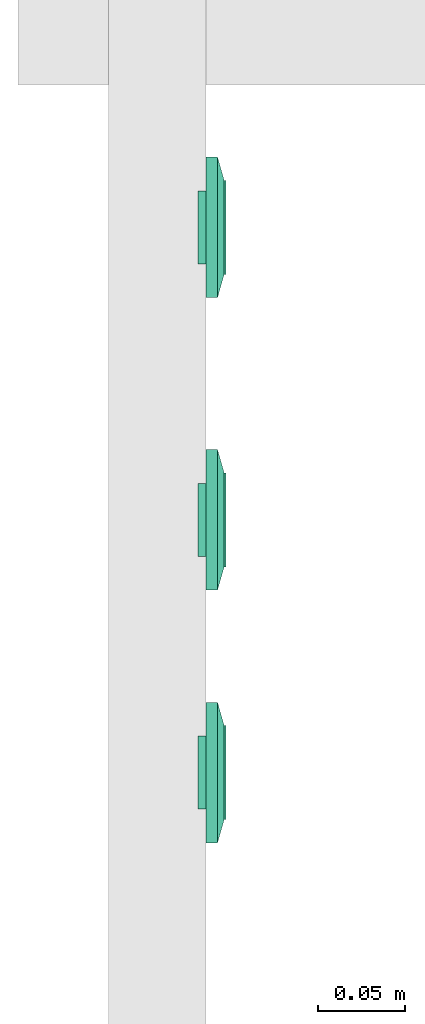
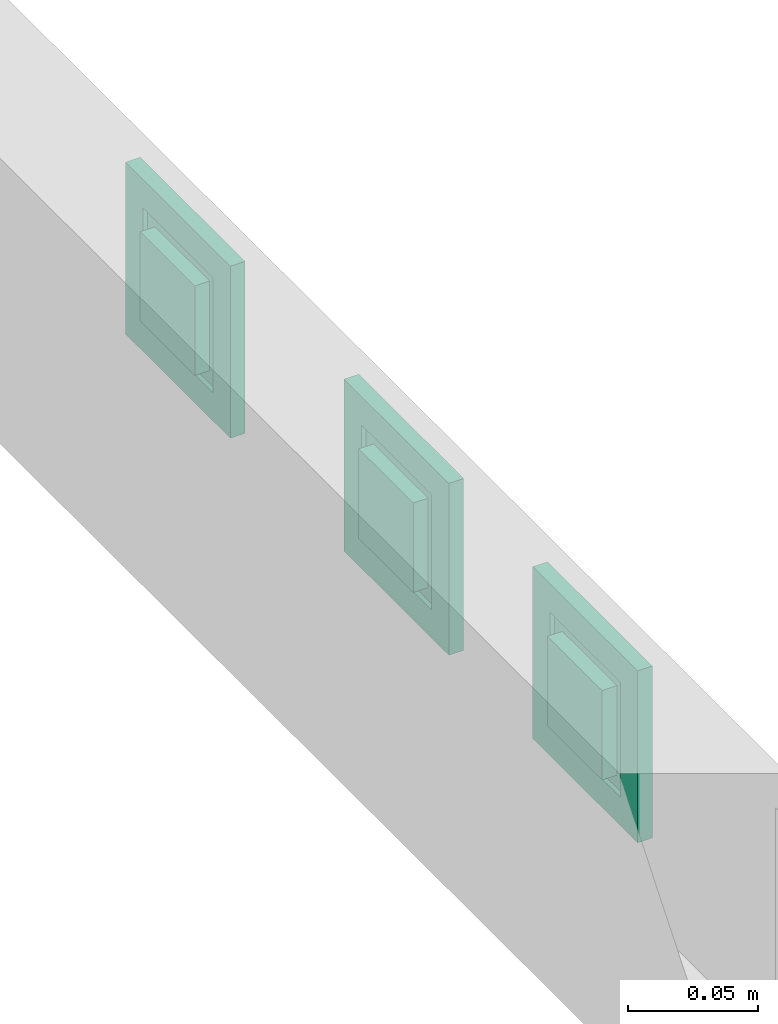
# One storey, part 27 of 166: 3 flow terminals.
"""IFC2X3 building model written with IfcOpenShell, lengths in metres."""

import ifcopenshell
import ifcopenshell.guid

model = None  # the IFC model being written
_history = None  # IfcOwnerHistory: only IFC2X3 demands one
_inside = {}  # id of a spatial element -> (the spatial element, [elements in it])
_under = {}  # id of a project, library or spatial element -> (it, [spatial elements below it])
_declared = {}  # id of a project -> (the project, [libraries it declares])
_typed = {}  # id of a type object -> (the type object, [elements of that type])
_made_of = {}  # id of a material, layer set ... -> (it, [elements and type objects made of it])


def new_model(schema):
    """Start an empty IFC model of exactly this schema.

    Asked for "IFC4X3", IfcOpenShell would pick the latest addendum, in which some entities
    have other attributes; the version numbers below select the first issue.
    IFC2X3 requires an IfcOwnerHistory on every rooted entity: one is made here for all.
    """
    global model, _history
    if schema == "IFC4X3":
        model = ifcopenshell.file(schema_version=(4, 3, 0, 0))
    else:
        model = ifcopenshell.file(schema=schema)
    _inside.clear()
    _under.clear()
    _declared.clear()
    _typed.clear()
    _made_of.clear()
    _history = None
    if model.schema == "IFC2X3":
        org = make("IfcOrganization", Name="unknown")
        user = make(
            "IfcPersonAndOrganization",
            ThePerson=make("IfcPerson", FamilyName="unknown"),
            TheOrganization=org,
        )
        app = make(
            "IfcApplication",
            ApplicationDeveloper=org,
            Version="unknown",
            ApplicationFullName="unknown",
            ApplicationIdentifier="unknown",
        )
        _history = make(
            "IfcOwnerHistory",
            OwningUser=user,
            OwningApplication=app,
            ChangeAction="ADDED",
            CreationDate=0,
        )
    return model


def make(cls, **values):
    """One entity of the class cls with the attributes given. An attribute that is None is left unset."""
    return model.create_entity(
        cls, **{name: value for name, value in values.items() if value is not None}
    )


def entity(cls, *values):
    """Any entity or typed value of the class cls, its attributes in the order of the schema. None: left unset."""
    e = model.create_entity(cls)
    for i, value in enumerate(values):
        if value is not None:
            e[i] = value
    return e


def rooted(cls, **values):
    """An entity with a GlobalId (a new one), such as an element, a storey or a relation."""
    return make(cls, GlobalId=ifcopenshell.guid.new(), OwnerHistory=_history, **values)


def si_unit(unit_type, name, prefix=None):
    """IfcSIUnit, for example si_unit("LENGTHUNIT", "METRE", prefix="MILLI")."""
    return make("IfcSIUnit", UnitType=unit_type, Prefix=prefix, Name=name)


def converted_unit(unit_type, name, factor, base, dimensions=None, offset=None):
    """IfcConversionBasedUnit, such as the inch: factor (a typed value) times the base unit."""
    return make(
        "IfcConversionBasedUnit"
        if offset is None
        else "IfcConversionBasedUnitWithOffset",
        ConversionOffset=offset,
        Dimensions=None
        if dimensions is None
        else entity("IfcDimensionalExponents", *dimensions),
        UnitType=unit_type,
        Name=name,
        ConversionFactor=make(
            "IfcMeasureWithUnit", ValueComponent=factor, UnitComponent=base
        ),
    )


def derived_unit(unit_type, elements):
    """IfcDerivedUnit: a product of units, each with its exponent."""
    return make(
        "IfcDerivedUnit",
        Elements=[
            make("IfcDerivedUnitElement", Unit=unit, Exponent=power)
            for unit, power in elements
        ],
        UnitType=unit_type,
    )


def assignment(units):
    """IfcUnitAssignment: the units of a project."""
    return None if units is None else make("IfcUnitAssignment", Units=units)


def point(xyz):
    """IfcCartesianPoint."""
    return None if xyz is None else make("IfcCartesianPoint", Coordinates=xyz)


def direction(xyz):
    """IfcDirection."""
    return None if xyz is None else make("IfcDirection", DirectionRatios=xyz)


def frame(location, z_axis=None, x_axis=None):
    """IfcAxis2Placement3D, a coordinate frame: its origin and axes. An axis left out is left unset."""
    return make(
        "IfcAxis2Placement3D",
        Location=point(location),
        Axis=direction(z_axis),
        RefDirection=direction(x_axis),
    )


def origin():
    """The frame at (0, 0, 0) with its axes left unset."""
    return frame((0.0, 0.0, 0.0))


def place(relative_to, where):
    """IfcLocalPlacement: puts the frame where relative to a parent placement (None: the world)."""
    return make(
        "IfcLocalPlacement", PlacementRelTo=relative_to, RelativePlacement=where
    )


def context(
    kind, dimensions, precision=None, world=None, true_north=None, identifier=None
):
    """IfcGeometricRepresentationContext, for example the 3D "Model" context."""
    return make(
        "IfcGeometricRepresentationContext",
        ContextIdentifier=identifier,
        ContextType=kind,
        CoordinateSpaceDimension=dimensions,
        Precision=precision,
        WorldCoordinateSystem=world,
        TrueNorth=true_north,
    )


def subcontext(parent, identifier, kind, view, scale=None):
    """IfcGeometricRepresentationSubContext, for example "Body" below "Model"."""
    return make(
        "IfcGeometricRepresentationSubContext",
        ContextIdentifier=identifier,
        ContextType=kind,
        ParentContext=parent,
        TargetScale=scale,
        TargetView=view,
    )


def project(units=None, contexts=None):
    """IfcProject with its units and contexts."""
    return rooted(
        "IfcProject",
        Name="project",
        RepresentationContexts=contexts,
        UnitsInContext=assignment(units),
    )


def spatial(cls, under=None, at=None, **own):
    """A site, building, storey or space (cls), placed at a placement, below another one or the project."""
    s = rooted(cls, ObjectPlacement=at, **own)
    if under is not None:
        _under.setdefault(under.id(), (under, []))[1].append(s)
    return s


def faces_of(points, faces, orient=None, outer=None):
    """IfcFace entities. A face is a list of loops; a loop is a list of indices into points, from 0.

    orient and outer hold one flag for each loop. By default every Orientation is true, the
    first loop of a face is its IfcFaceOuterBound and the others are IfcFaceBound.
    """
    made = []
    for i, loops in enumerate(faces):
        bounds = []
        for j, loop in enumerate(loops):
            is_outer = j == 0 if outer is None else outer[i][j]
            bounds.append(
                make(
                    "IfcFaceOuterBound" if is_outer else "IfcFaceBound",
                    Bound=make("IfcPolyLoop", Polygon=[points[k] for k in loop]),
                    Orientation=True if orient is None else orient[i][j],
                )
            )
        made.append(make("IfcFace", Bounds=bounds))
    return made


def faceted_brep(points, faces, orient=None, outer=None, voids=None):
    """IfcFacetedBrep: a solid bounded by flat faces; with voids (closed shells), ...WithVoids."""
    shared = [point(p) for p in points]
    hull = make("IfcClosedShell", CfsFaces=faces_of(shared, faces, orient, outer))
    if voids is None:
        return make("IfcFacetedBrep", Outer=hull)
    return make(
        "IfcFacetedBrepWithVoids",
        Outer=hull,
        Voids=[
            make(cls, CfsFaces=faces_of(shared, fs, o, b)) for cls, fs, o, b in voids
        ],
    )


def shape(context_of_items, identifier, shape_type, items):
    """IfcShapeRepresentation: the items that make up one representation, for example the "Body"."""
    return make(
        "IfcShapeRepresentation",
        ContextOfItems=context_of_items,
        RepresentationIdentifier=identifier,
        RepresentationType=shape_type,
        Items=items,
    )


def source(mapping_origin, context_of_items, identifier, shape_type, items):
    """IfcRepresentationMap: a shape defined once, which mapped items show again and again."""
    return make(
        "IfcRepresentationMap",
        MappingOrigin=mapping_origin,
        MappedRepresentation=shape(context_of_items, identifier, shape_type, items),
    )


def transform(
    local_origin,
    x_axis=None,
    y_axis=None,
    z_axis=None,
    scale=None,
    scale2=None,
    scale3=None,
    uniform=True,
):
    """IfcCartesianTransformationOperator3D, or its non-uniform kind. x_axis, y_axis, z_axis: its Axis1, 2, 3."""
    if uniform:
        return make(
            "IfcCartesianTransformationOperator3D",
            Axis1=direction(x_axis),
            Axis2=direction(y_axis),
            LocalOrigin=point(local_origin),
            Scale=scale,
            Axis3=direction(z_axis),
        )
    return make(
        "IfcCartesianTransformationOperator3DnonUniform",
        Axis1=direction(x_axis),
        Axis2=direction(y_axis),
        LocalOrigin=point(local_origin),
        Scale=scale,
        Axis3=direction(z_axis),
        Scale2=scale2,
        Scale3=scale3,
    )


def mapped(mapping_source, mapping_target):
    """IfcMappedItem: shows the shape of a source again, moved by a transform."""
    return make(
        "IfcMappedItem", MappingSource=mapping_source, MappingTarget=mapping_target
    )


def made_of(thing, what):
    """Note that an element or type object is made of a material, layer set ...; save() writes the relation."""
    if what is not None:
        _made_of.setdefault(what.id(), (what, []))[1].append(thing)
    return thing


def type_object(cls, material=None, **own):
    """A type object (cls), such as IfcWallType, which elements share."""
    return made_of(rooted(cls, **own), material)


def type_shapes(of_type, sources):
    """Give a type object the sources (RepresentationMaps) that its elements show as mapped items."""
    of_type.RepresentationMaps = sources


def element(
    cls,
    number,
    at=None,
    inside=None,
    cuts=None,
    type_object=None,
    material=None,
    context=None,
    identifier="Body",
    shape_type=None,
    held_by="IfcProductDefinitionShape",
    body=None,
    shapes=None,
    **own,
):
    """One element of the class cls, such as IfcWall. Its Tag is "e" and its number.

    at: its placement. inside: the storey or other place that contains it. cuts: it is an
    opening in that element (IfcRelVoidsElement). A single representation is given by context,
    identifier, shape_type and body (its items); several are given by shapes. held_by: the class
    of the entity that holds the representations. save() writes the other relations.
    """
    e = rooted(cls, Tag="e%d" % number, ObjectPlacement=at, **own)
    if body is not None:
        shapes = [shape(context, identifier, shape_type, body)]
    if shapes is not None:
        e.Representation = make(held_by, Representations=shapes)
    if inside is not None:
        _inside.setdefault(inside.id(), (inside, []))[1].append(e)
    if cuts is not None:
        rooted(
            "IfcRelVoidsElement", RelatingBuildingElement=cuts, RelatedOpeningElement=e
        )
    if type_object is not None:
        _typed.setdefault(type_object.id(), (type_object, []))[1].append(e)
    return made_of(e, material)


def aggregate(whole, parts):
    """IfcRelAggregates: a whole, such as a stair, and the parts it consists of."""
    return rooted("IfcRelAggregates", RelatingObject=whole, RelatedObjects=parts)


def save(model, path):
    """Write the relations noted so far, then the file.

    IfcRelAggregates (storeys below a building ...), IfcRelContainedInSpatialStructure (elements
    in a storey), IfcRelDefinesByType, IfcRelAssociatesMaterial and IfcRelDeclares: one each for
    every whole, place, type object, material and project.
    """
    for whole, parts in _under.values():
        aggregate(whole, parts)
    for where, things in _inside.values():
        rooted(
            "IfcRelContainedInSpatialStructure",
            RelatedElements=things,
            RelatingStructure=where,
        )
    for kind, things in _typed.values():
        rooted("IfcRelDefinesByType", RelatedObjects=things, RelatingType=kind)
    for what, things in _made_of.values():
        rooted("IfcRelAssociatesMaterial", RelatedObjects=things, RelatingMaterial=what)
    for by, libraries in _declared.values():
        rooted("IfcRelDeclares", RelatingContext=by, RelatedDefinitions=libraries)
    model.write(path)


model = new_model("IFC2X3")

# Units and contexts
model_context = context("Model", 3, precision=1e-05, world=origin(), true_north=direction((6.12303176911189e-17, 1.0)))
body_context = subcontext(model_context, "Body", "Model", "MODEL_VIEW")
ifc_project = project(units=[si_unit("LENGTHUNIT", "METRE"), si_unit("AREAUNIT", "SQUARE_METRE"), si_unit("VOLUMEUNIT", "CUBIC_METRE"), converted_unit("PLANEANGLEUNIT", "DEGREE", entity("IfcRatioMeasure", 0.0174532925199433), si_unit("PLANEANGLEUNIT", "RADIAN"), dimensions=[0, 0, 0, 0, 0, 0, 0]), si_unit("MASSUNIT", "GRAM", prefix="KILO"), derived_unit("MASSDENSITYUNIT", [(si_unit("MASSUNIT", "GRAM", prefix="KILO"), 1), (si_unit("LENGTHUNIT", "METRE"), -3)]), si_unit("TIMEUNIT", "SECOND"), si_unit("FREQUENCYUNIT", "HERTZ"), si_unit("THERMODYNAMICTEMPERATUREUNIT", "DEGREE_CELSIUS"), derived_unit("THERMALTRANSMITTANCEUNIT", [(si_unit("MASSUNIT", "GRAM", prefix="KILO"), 1), (si_unit("THERMODYNAMICTEMPERATUREUNIT", "KELVIN"), -1), (si_unit("TIMEUNIT", "SECOND"), -3)]), derived_unit("VOLUMETRICFLOWRATEUNIT", [(si_unit("LENGTHUNIT", "METRE"), 3), (si_unit("TIMEUNIT", "SECOND"), -1)]), si_unit("ELECTRICCURRENTUNIT", "AMPERE"), si_unit("ELECTRICVOLTAGEUNIT", "VOLT"), si_unit("POWERUNIT", "WATT"), si_unit("FORCEUNIT", "NEWTON"), si_unit("ILLUMINANCEUNIT", "LUX"), si_unit("LUMINOUSFLUXUNIT", "LUMEN"), si_unit("LUMINOUSINTENSITYUNIT", "CANDELA"), derived_unit("USERDEFINED", [(si_unit("MASSUNIT", "GRAM", prefix="KILO"), -1), (si_unit("LENGTHUNIT", "METRE"), -2), (si_unit("TIMEUNIT", "SECOND"), 3), (si_unit("LUMINOUSFLUXUNIT", "LUMEN"), 1)]), derived_unit("LINEARVELOCITYUNIT", [(si_unit("LENGTHUNIT", "METRE"), 1), (si_unit("TIMEUNIT", "SECOND"), -1)]), si_unit("PRESSUREUNIT", "PASCAL"), derived_unit("USERDEFINED", [(si_unit("LENGTHUNIT", "METRE"), -2), (si_unit("MASSUNIT", "GRAM", prefix="KILO"), 1), (si_unit("TIMEUNIT", "SECOND"), -2)])], contexts=[model_context])

# Site, building, storey
site_placement = place(None, origin())
site = spatial("IfcSite", under=ifc_project, at=site_placement, Name="Default", CompositionType="ELEMENT")
building_placement = place(site_placement, origin())
building = spatial("IfcBuilding", under=site, at=building_placement, CompositionType="ELEMENT")
storey_placement = place(building_placement, frame((0.0, 0.0, 4.27)))
storey = spatial("IfcBuildingStorey", under=building, at=storey_placement, Name="01", CompositionType="ELEMENT", Elevation=4.27)

# Flow terminals
electric_appliance_type = type_object("IfcElectricApplianceType", Name="RJ45 IP20", PredefinedType="NOTDEFINED")
shared_shape = source(origin(), body_context, "Body", "Brep", [
    faceted_brep([(0.00200000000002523, 0.0, 0.00799999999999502), (0.00400000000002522, 0.0, 0.00799999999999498), (0.00500000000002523, 0.00199999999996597, 0.00799999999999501), (0.0110000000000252, 0.00199999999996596, 0.00799999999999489), (0.0120000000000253, 0.0, 0.00799999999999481), (0.0140000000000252, 0.0, 0.00799999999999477), (0.0140000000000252, 0.00399999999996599, 0.00799999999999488), (0.00200000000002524, 0.00399999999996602, 0.00799999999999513), (0.00200000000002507, 0.0, 0.0), (0.00200000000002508, 0.00399999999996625, 0.0), (0.0140000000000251, 0.00399999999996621, 0.0), (0.0140000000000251, 0.0, 0.0), (0.0120000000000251, 0.0, 0.0), (0.0110000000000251, 0.00199999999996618, 0.0), (0.00500000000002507, 0.0019999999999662, 0.0), (0.00400000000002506, 0.0, 0.0)], [[[0, 1, 2, 3, 4, 5, 6, 7]], [[8, 9, 10, 11, 12, 13, 14, 15]], [[1, 0, 8, 15]], [[2, 1, 15, 14]], [[3, 2, 14, 13]], [[4, 3, 13, 12]], [[5, 4, 12, 11]], [[6, 5, 11, 10]], [[7, 6, 10, 9]], [[0, 7, 9, 8]]]),
    faceted_brep([(-0.0139999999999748, 0.0, 0.00799999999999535), (-0.0119999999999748, 0.0, 0.00799999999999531), (-0.0109999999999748, 0.00199999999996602, 0.00799999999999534), (-0.00499999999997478, 0.00199999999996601, 0.00799999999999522), (-0.0039999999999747, 0.0, 0.00799999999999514), (-0.00199999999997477, 0.0, 0.0079999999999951), (-0.00199999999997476, 0.00399999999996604, 0.00799999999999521), (-0.0139999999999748, 0.00399999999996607, 0.00799999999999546), (-0.0139999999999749, 0.0, 0.0), (-0.0139999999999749, 0.00399999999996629, 0.0), (-0.00199999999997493, 0.00399999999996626, 0.0), (-0.00199999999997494, 0.0, 0.0), (-0.00399999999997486, 0.0, 0.0), (-0.00499999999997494, 0.00199999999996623, 0.0), (-0.0109999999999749, 0.00199999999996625, 0.0), (-0.0119999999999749, 0.0, 0.0)], [[[0, 1, 2, 3, 4, 5, 6, 7]], [[8, 9, 10, 11, 12, 13, 14, 15]], [[1, 0, 8, 15]], [[2, 1, 15, 14]], [[3, 2, 14, 13]], [[4, 3, 13, 12]], [[5, 4, 12, 11]], [[6, 5, 11, 10]], [[7, 6, 10, 9]], [[0, 7, 9, 8]]]),
    faceted_brep([(0.0140000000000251, 0.00399999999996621, 0.0), (0.00200000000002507, 0.00399999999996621, 0.0), (0.00200000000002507, -0.00350000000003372, 0.0), (0.0140000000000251, -0.00350000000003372, 0.0), (0.0140000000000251, 0.00399999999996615, 0.00199999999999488), (0.00200000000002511, 0.00399999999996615, 0.00199999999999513), (0.00200000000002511, -0.00393859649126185, 0.00199999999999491), (0.0140000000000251, -0.00393859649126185, 0.00199999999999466), (0.0210000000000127, 0.0209999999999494, 0.00199999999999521), (-0.0209999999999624, 0.0209999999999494, 0.00199999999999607), (-0.0209999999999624, -0.0210000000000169, 0.00199999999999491), (0.0210000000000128, -0.0210000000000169, 0.00199999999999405), (-0.0139999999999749, 0.0039999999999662, 0.00199999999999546), (-0.0019999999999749, 0.0039999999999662, 0.00199999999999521), (-0.00199999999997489, -0.0039385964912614, 0.00199999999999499), (-0.0139999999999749, -0.00393859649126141, 0.00199999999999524), (0.0210000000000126, 0.0209999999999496, -0.00460000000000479), (0.0210000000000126, -0.0210000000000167, -0.00460000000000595), (-0.0209999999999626, -0.0210000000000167, -0.00460000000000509), (-0.0209999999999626, 0.0209999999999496, -0.00460000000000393), (-0.00199999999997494, 0.00399999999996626, 0.0), (-0.0139999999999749, 0.00399999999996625, 0.0), (-0.0139999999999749, -0.00350000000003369, 0.0), (-0.00199999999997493, -0.00350000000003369, 0.0)], [[[0, 1, 2, 3]], [[1, 0, 4, 5]], [[2, 1, 5, 6]], [[3, 2, 6, 7]], [[0, 3, 7, 4]], [[5, 4, 7, 6], [8, 9, 10, 11], [12, 13, 14, 15]], [[16, 17, 18, 19]], [[9, 8, 16, 19]], [[10, 9, 19, 18]], [[11, 10, 18, 17]], [[8, 11, 17, 16]], [[20, 21, 22, 23]], [[21, 20, 13, 12]], [[22, 21, 12, 15]], [[23, 22, 15, 14]], [[20, 23, 14, 13]]], outer=[[True], [True], [True], [True], [True], [False, True, False], [True], [True], [True], [True], [True], [True], [True], [True], [True], [True]]),
    faceted_brep([(0.0270000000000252, 0.026999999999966, 0.0113999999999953), (-0.0269999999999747, 0.026999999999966, 0.0113999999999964), (-0.0269999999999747, -0.0270000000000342, 0.0113999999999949), (0.0270000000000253, -0.0270000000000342, 0.0113999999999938), (0.0020000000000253, 0.00399999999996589, 0.0113999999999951), (0.0140000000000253, 0.00399999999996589, 0.0113999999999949), (0.0140000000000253, -0.00600000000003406, 0.0113999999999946), (0.0020000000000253, -0.00600000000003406, 0.0113999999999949), (-0.0139999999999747, 0.00399999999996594, 0.0113999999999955), (-0.00199999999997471, 0.00399999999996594, 0.0113999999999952), (-0.00199999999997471, -0.0060000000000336, 0.0113999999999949), (-0.0139999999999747, -0.00600000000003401, 0.0113999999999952), (0.0270000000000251, 0.0269999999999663, 0.00199999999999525), (0.0270000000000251, -0.0270000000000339, 0.00199999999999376), (-0.0269999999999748, -0.0270000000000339, 0.00199999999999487), (-0.0269999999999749, 0.0269999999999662, 0.00199999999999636), (0.0140000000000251, 0.00399999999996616, 0.00199999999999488), (0.00200000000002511, 0.00399999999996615, 0.00199999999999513), (0.00200000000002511, -0.00393859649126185, 0.00199999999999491), (0.0140000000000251, -0.00393859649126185, 0.00199999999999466), (-0.00199999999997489, 0.0039999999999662, 0.00199999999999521), (-0.0139999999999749, 0.0039999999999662, 0.00199999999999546), (-0.0139999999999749, -0.0039385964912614, 0.00199999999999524), (-0.00199999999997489, -0.0039385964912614, 0.00199999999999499)], [[[0, 1, 2, 3], [4, 5, 6, 7], [8, 9, 10, 11]], [[12, 13, 14, 15], [16, 17, 18, 19], [20, 21, 22, 23]], [[1, 0, 12, 15]], [[2, 1, 15, 14]], [[3, 2, 14, 13]], [[0, 3, 13, 12]], [[4, 17, 16, 5]], [[17, 4, 7, 18]], [[18, 7, 6, 19]], [[5, 16, 19, 6]], [[8, 21, 20, 9]], [[21, 8, 11, 22]], [[22, 11, 10, 23]], [[9, 20, 23, 10]]]),
    faceted_brep([(0.027000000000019, 0.0269999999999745, 0.00659999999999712), (-0.0269999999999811, 0.0269999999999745, 0.00659999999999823), (-0.026999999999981, -0.0270000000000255, 0.00659999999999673), (0.027000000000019, -0.0270000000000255, 0.00659999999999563), (0.040350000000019, 0.0403499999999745, 0.00659999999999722), (0.040350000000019, -0.0403500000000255, 0.00659999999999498), (-0.0403499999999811, -0.0403500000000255, 0.00659999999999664), (-0.0403499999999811, 0.0403499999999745, 0.00659999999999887), (-0.026999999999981, 0.0269999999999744, 0.0103999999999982), (0.027000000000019, 0.0269999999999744, 0.0103999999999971), (-0.026999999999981, -0.0270000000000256, 0.0103999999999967), (0.027000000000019, -0.0270000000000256, 0.0103999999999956)], [[[0, 1, 2, 3], [4, 5, 6, 7]], [[4, 7, 8, 9]], [[7, 6, 10, 8]], [[6, 5, 11, 10]], [[5, 4, 9, 11]], [[0, 9, 8, 1]], [[1, 8, 10, 2]], [[2, 10, 11, 3]], [[9, 0, 3, 11]]], outer=[[False, True], [True], [True], [True], [True], [True], [True], [True], [True]]),
    faceted_brep([(0.040350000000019, 0.0403499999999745, 0.00659999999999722), (-0.0403499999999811, 0.0403499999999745, 0.00659999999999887), (-0.0403499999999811, -0.0403500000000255, 0.00659999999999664), (0.040350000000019, -0.0403500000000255, 0.00659999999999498), (-0.0269999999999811, 0.0269999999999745, 0.00659999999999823), (0.0270000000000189, 0.0269999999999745, 0.00659999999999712), (0.0270000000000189, -0.0270000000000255, 0.00659999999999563), (-0.0269999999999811, -0.0270000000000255, 0.00659999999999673), (0.0403500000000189, 0.0403499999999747, 0.0), (0.0403500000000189, -0.0403500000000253, 0.0), (-0.0403499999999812, -0.0403500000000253, 0.0), (-0.0403499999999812, 0.0403499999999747, 0.0), (0.0270000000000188, 0.0269999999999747, 0.0), (-0.0269999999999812, 0.0269999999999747, 0.0), (-0.0269999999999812, -0.0270000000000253, 0.0), (0.0270000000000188, -0.0270000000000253, 0.0)], [[[0, 1, 2, 3], [4, 5, 6, 7]], [[8, 9, 10, 11], [12, 13, 14, 15]], [[1, 0, 8, 11]], [[2, 1, 11, 10]], [[3, 2, 10, 9]], [[0, 3, 9, 8]], [[12, 5, 4, 13]], [[13, 4, 7, 14]], [[14, 7, 6, 15]], [[5, 12, 15, 6]]]),
])
type_shapes(electric_appliance_type, [shared_shape])
for number, where, z_axis, x_axis in (
    (1, (26.1797436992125, -188.48779450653, 4.70800000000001), (1.0, 0.0, 0.0), (0.0, 1.0, 0.0)),
    (2, (26.1797436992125, -188.632953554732, 4.70800000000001), (1.0, 0.0, 0.0), (0.0, 1.0, 0.0)),
    (3, (26.1797436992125, -188.31979450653, 4.70800000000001), (1.0, 0.0, 0.0), (0.0, 1.0, 0.0)),
):
    element("IfcFlowTerminal", number, at=place(building_placement, frame(where, z_axis=z_axis, x_axis=x_axis)), inside=storey, type_object=electric_appliance_type, Name="INT_Prise RJ45:RJ45 IP20", ObjectType="INT_Prise RJ45:RJ45 IP20", context=body_context, shape_type="MappedRepresentation", body=[
        mapped(shared_shape, transform((0.0, 0.0, 0.0), scale=1.0)),
    ])

save(model, "model.ifc")
